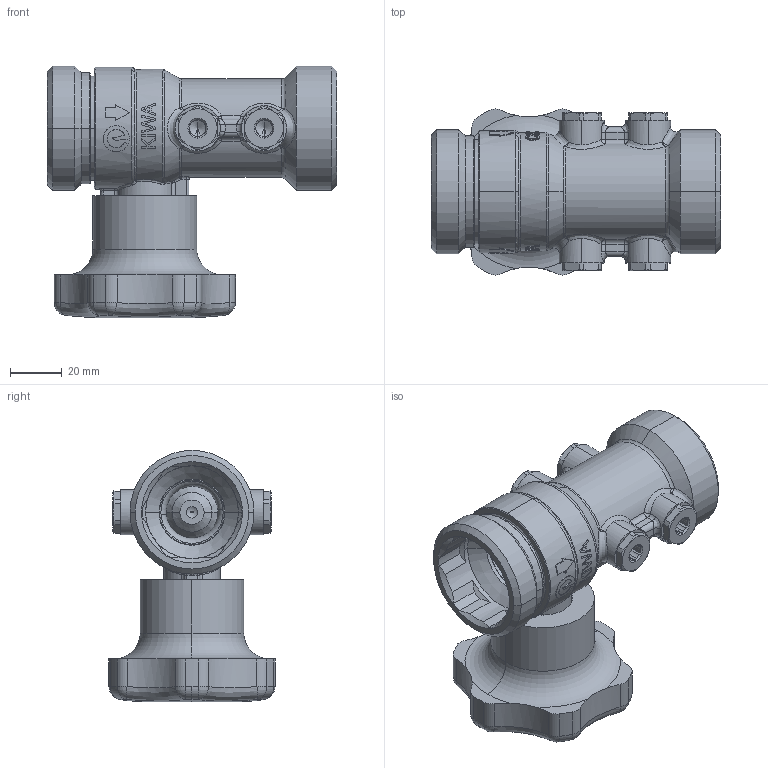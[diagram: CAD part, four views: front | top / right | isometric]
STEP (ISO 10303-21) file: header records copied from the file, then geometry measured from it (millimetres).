
FILE_DESCRIPTION (( 'STEP AP214' ), '1' );
FILE_NAME ('W228032244.STEP', '2018-09-17T07:17:55', ( '' ), ( '' ), 'SwSTEP 2.0', 'SolidWorks 2017', '' );
FILE_SCHEMA (( 'AUTOMOTIVE_DESIGN' ));
Length unit declared in the file: millimetre
Products named in the file (17): 22019136W corps; W098025201; W098025204; sachet; 11336; 10141; 11325_Purge HUACHENG; 10029; W098025210_P627 4 pour 20 et 25; W034032500_W034032512UsM1p1d; W093003102; W022014070; W228032244; W022032070; W092032312; 11335; W149032618
Assembly tree (24 placements, depth 3):
  W228032244
    W034032500_W034032512UsM1p1d
    W098025210_P627 4 pour 20 et 25
    10141  x2
    W098025201
    W098025204  x2
    W149032618
      22019136W corps
    W022032070
    W093003102  x4
    W022014070  x4
    11335
    10029
    11336
    W092032312
    11325_Purge HUACHENG
    sachet
Bounding box: 111.6 x 64.11 x 97 mm (x, y, z)
Volume: 196777.2 mm3; surface area: 93233.2 mm2
Topology: 24 solids, 26 shells, 1621 faces, 4086 edges, 2555 vertices
Faces by surface type: plane 605, cylinder 462, cone 279, torus 126, bspline 115, sphere 34
Entity records: 52691 total; most frequent: CARTESIAN_POINT 17216, ORIENTED_EDGE 7210, DIRECTION 6944, EDGE_CURVE 3605, AXIS2_PLACEMENT_3D 2755, VERTEX_POINT 2265, EDGE_LOOP 1534, VECTOR 1434
